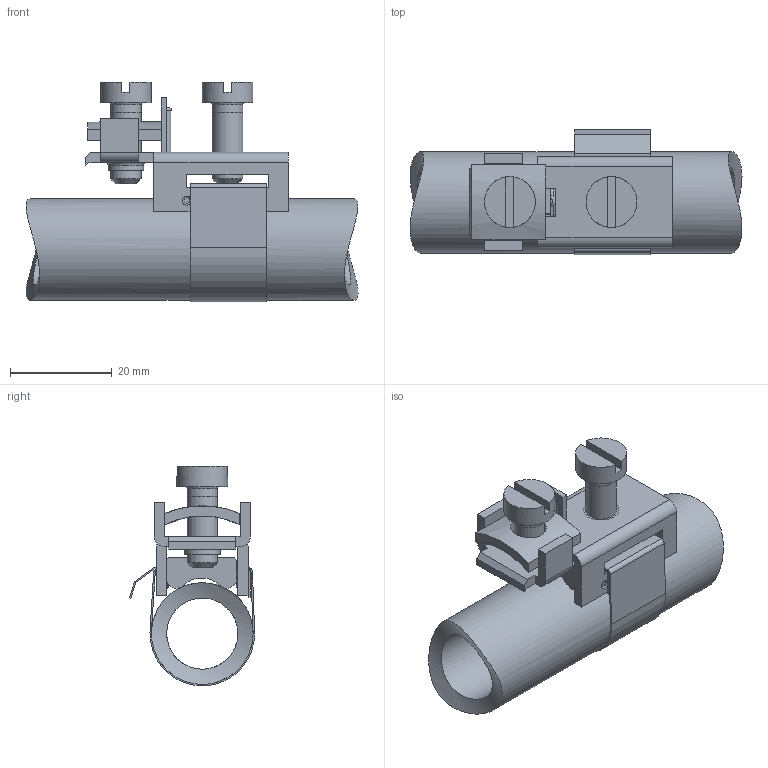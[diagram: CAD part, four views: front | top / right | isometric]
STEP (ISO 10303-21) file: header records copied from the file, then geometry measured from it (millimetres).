
FILE_DESCRIPTION(/* description */ ('Unknown'),/* implementation_level */ '2;1');
FILE_NAME(/* name */ 'ZS 16 VK',/* time_stamp */ '2021-10-13T11:26:59+02:00',/* author */ ('Unknown'),/* organization */ ('Unknown'),/* preprocessor_version */ 'ST-DEVELOPER v16.7',/* originating_system */ 'Solid Edge',/* authorisation */ 'Unknown');
FILE_SCHEMA (('AUTOMOTIVE_DESIGN {1 0 10303 214 3 1 1}'));
Length unit declared in the file: millimetre
Products named in the file (1): ZS 16 VK
Bounding box: 65.36 x 24.64 x 43.21 mm (x, y, z)
Volume: 15097.1 mm3; surface area: 14964.6 mm2
Topology: 1 solids, 1 shells, 195 faces, 520 edges, 340 vertices
Faces by surface type: plane 124, cylinder 40, torus 27, bspline 2, cone 2
Full cylindrical faces by diameter (mm): 1.2 x4, 6 x6, 7 x3, 10 x2, 14 x1, 20 x1
Entity records: 7279 total; most frequent: CARTESIAN_POINT 1213, DIRECTION 956, ORIENTED_EDGE 932, EDGE_CURVE 466, AXIS2_PLACEMENT_3D 325, VERTEX_POINT 322, LINE 306, VECTOR 306
